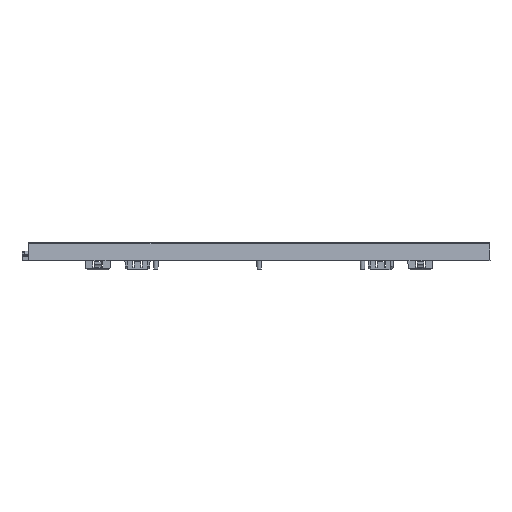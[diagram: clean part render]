
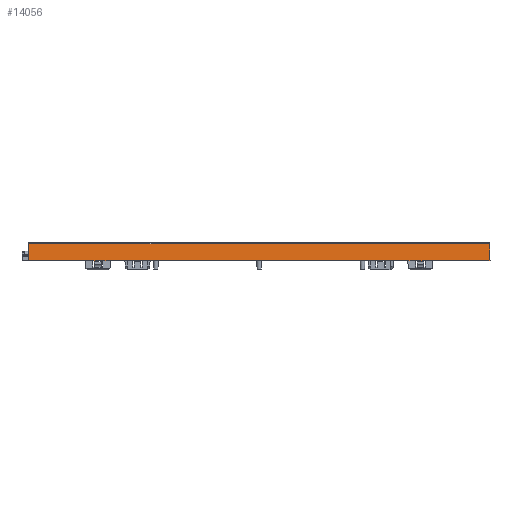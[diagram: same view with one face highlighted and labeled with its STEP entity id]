
A CAD part, front view. The second image highlights one B-rep face of the part: STEP entity #14056.
In plain terms, the highlighted planar face has unit normal (0, -0.996, 0.087).
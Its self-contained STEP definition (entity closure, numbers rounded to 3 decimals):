
#1416=CARTESIAN_POINT(' ',(-90.005,-20.,-1.6));
#1417=VERTEX_POINT(' ',#1416);
#4796=CARTESIAN_POINT(' ',(-90.005,-20.,-1.6));
#4801=DIRECTION(' ',(1.,0.,0.));
#4806=VECTOR(' ',#4801,1.);
#4811=LINE('',#4796,#4806);
#4816=CARTESIAN_POINT(' ',(90.005,-20.,-1.6));
#4817=VERTEX_POINT(' ',#4816);
#4821=EDGE_CURVE(' ',#1417,#4817,#4811,.T.);
#5076=CARTESIAN_POINT(' ',(-105.195,-20.,-1.6));
#5081=DIRECTION(' ',(1.,0.,0.));
#5086=VECTOR(' ',#5081,1.);
#5091=LINE('',#5076,#5086);
#5096=CARTESIAN_POINT(' ',(-105.195,-20.,-1.6));
#5097=VERTEX_POINT(' ',#5096);
#5101=CARTESIAN_POINT(' ',(-100.6,-20.,-1.6));
#5102=VERTEX_POINT(' ',#5101);
#5106=EDGE_CURVE(' ',#5097,#5102,#5091,.T.);
#5226=CARTESIAN_POINT(' ',(-94.6,-20.,-1.6));
#5231=DIRECTION(' ',(1.,0.,0.));
#5236=VECTOR(' ',#5231,1.);
#5241=LINE('',#5226,#5236);
#5246=CARTESIAN_POINT(' ',(-94.6,-20.,-1.6));
#5247=VERTEX_POINT(' ',#5246);
#5251=EDGE_CURVE(' ',#5247,#1417,#5241,.T.);
#6306=CARTESIAN_POINT(' ',(-100.6,-20.,-1.6));
#6311=DIRECTION(' ',(1.,0.,0.));
#6316=VECTOR(' ',#6311,1.);
#6321=LINE('',#6306,#6316);
#6326=EDGE_CURVE(' ',#5102,#5247,#6321,.T.);
#11821=CARTESIAN_POINT(' ',(105.195,-20.,-1.6));
#11822=VERTEX_POINT(' ',#11821);
#13731=DIRECTION(' ',(0.,-0.996,0.087));
#13736=CARTESIAN_POINT(' ',(-139.7,-19.11,8.568));
#13741=DIRECTION(' ',(0.,-0.087,-0.996));
#13746=AXIS2_PLACEMENT_3D(' ',#13736,#13731,#13741);
#13751=PLANE('',#13746);
#13756=ORIENTED_EDGE(' ',*,*,#5106,.T.);
#13761=ORIENTED_EDGE(' ',*,*,#6326,.T.);
#13766=ORIENTED_EDGE(' ',*,*,#5251,.T.);
#13771=ORIENTED_EDGE(' ',*,*,#4821,.T.);
#13776=CARTESIAN_POINT(' ',(90.005,-20.,-1.6));
#13781=DIRECTION(' ',(1.,0.,0.));
#13786=VECTOR(' ',#13781,1.);
#13791=LINE('',#13776,#13786);
#13796=CARTESIAN_POINT(' ',(94.6,-20.,-1.6));
#13797=VERTEX_POINT(' ',#13796);
#13801=EDGE_CURVE(' ',#4817,#13797,#13791,.T.);
#13806=ORIENTED_EDGE(' ',*,*,#13801,.T.);
#13811=CARTESIAN_POINT(' ',(94.6,-20.,-1.6));
#13816=DIRECTION(' ',(1.,0.,0.));
#13821=VECTOR(' ',#13816,1.);
#13826=LINE('',#13811,#13821);
#13831=CARTESIAN_POINT(' ',(100.6,-20.,-1.6));
#13832=VERTEX_POINT(' ',#13831);
#13836=EDGE_CURVE(' ',#13797,#13832,#13826,.T.);
#13841=ORIENTED_EDGE(' ',*,*,#13836,.T.);
#13846=CARTESIAN_POINT(' ',(100.6,-20.,-1.6));
#13851=DIRECTION(' ',(1.,0.,0.));
#13856=VECTOR(' ',#13851,1.);
#13861=LINE('',#13846,#13856);
#13866=EDGE_CURVE(' ',#13832,#11822,#13861,.T.);
#13871=ORIENTED_EDGE(' ',*,*,#13866,.T.);
#13876=CARTESIAN_POINT(' ',(105.195,-20.,-1.6));
#13881=DIRECTION(' ',(1.,0.,0.));
#13886=VECTOR(' ',#13881,1.);
#13891=LINE('',#13876,#13886);
#13896=CARTESIAN_POINT(' ',(139.7,-20.,-1.6));
#13897=VERTEX_POINT(' ',#13896);
#13901=EDGE_CURVE(' ',#11822,#13897,#13891,.T.);
#13906=ORIENTED_EDGE(' ',*,*,#13901,.T.);
#13911=CARTESIAN_POINT(' ',(139.345,-19.11,8.568));
#13916=DIRECTION(' ',(0.035,-0.087,-0.996));
#13921=VECTOR(' ',#13916,1.);
#13926=LINE('',#13911,#13921);
#13931=CARTESIAN_POINT(' ',(139.345,-19.11,8.568));
#13932=VERTEX_POINT(' ',#13931);
#13936=EDGE_CURVE(' ',#13932,#13897,#13926,.T.);
#13941=ORIENTED_EDGE(' ',*,*,#13936,.F.);
#13946=CARTESIAN_POINT(' ',(139.345,-19.11,8.568));
#13951=DIRECTION(' ',(-1.,0.,0.));
#13956=VECTOR(' ',#13951,1.);
#13961=LINE('',#13946,#13956);
#13966=CARTESIAN_POINT(' ',(-139.345,-19.11,8.568));
#13967=VERTEX_POINT(' ',#13966);
#13971=EDGE_CURVE(' ',#13932,#13967,#13961,.T.);
#13976=ORIENTED_EDGE(' ',*,*,#13971,.T.);
#13981=CARTESIAN_POINT(' ',(-139.345,-19.11,8.568));
#13986=DIRECTION(' ',(-0.035,-0.087,-0.996));
#13991=VECTOR(' ',#13986,1.);
#13996=LINE('',#13981,#13991);
#14001=CARTESIAN_POINT(' ',(-139.7,-20.,-1.6));
#14002=VERTEX_POINT(' ',#14001);
#14006=EDGE_CURVE(' ',#13967,#14002,#13996,.T.);
#14011=ORIENTED_EDGE(' ',*,*,#14006,.T.);
#14016=CARTESIAN_POINT(' ',(-139.7,-20.,-1.6));
#14021=DIRECTION(' ',(1.,0.,0.));
#14026=VECTOR(' ',#14021,1.);
#14031=LINE('',#14016,#14026);
#14036=EDGE_CURVE(' ',#14002,#5097,#14031,.T.);
#14041=ORIENTED_EDGE(' ',*,*,#14036,.T.);
#14046=EDGE_LOOP(' ',(#13756,#13761,#13766,#13771,#13806,#13841,#13871,#13906,#13941,#13976,#14011,#14041));
#14051=FACE_OUTER_BOUND(' ',#14046,.T.);
#14056=ADVANCED_FACE('',(#14051),#13751,.T.);
